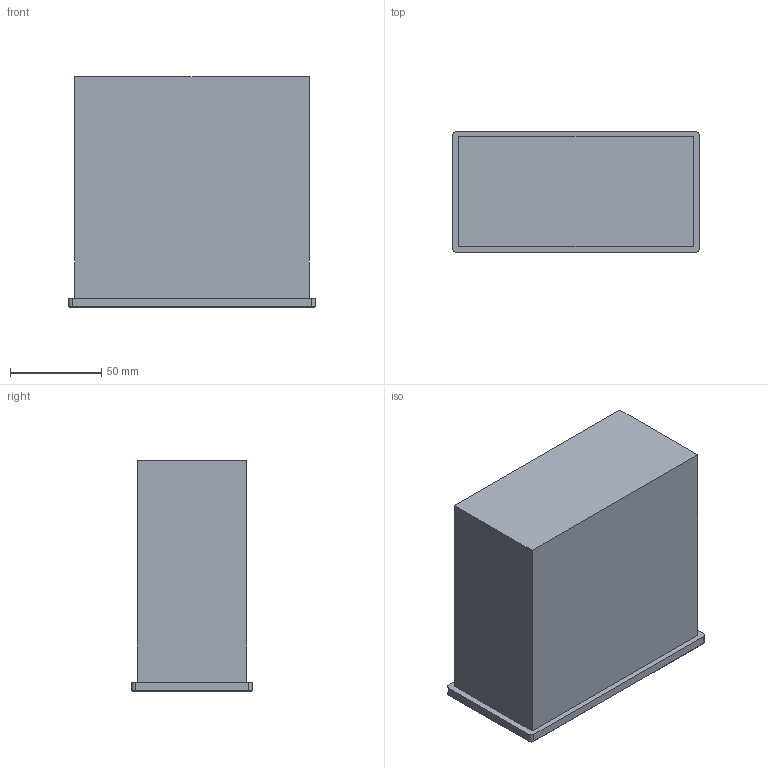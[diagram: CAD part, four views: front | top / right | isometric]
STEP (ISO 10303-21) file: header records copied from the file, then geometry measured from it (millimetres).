
FILE_DESCRIPTION(('STEP AP203'),'1');
FILE_NAME('WB-20N.stp','2023-04-04T02:41:52',(' '),(' '),'Spatial InterOp 3D',' ',' ');
FILE_SCHEMA(('CONFIG_CONTROL_DESIGN'));
Length unit declared in the file: millimetre
Products named in the file (2): WB-20N; 파트1
Assembly tree (1 placements, depth 2):
  WB-20N
    파트1
Bounding box: 135 x 66 x 126 mm (x, y, z)
Volume: 973791.5 mm3; surface area: 65216.3 mm2
Topology: 1 solids, 1 shells, 23 faces, 52 edges, 32 vertices
Faces by surface type: plane 11, cylinder 8, torus 4
Entity records: 742 total; most frequent: DIRECTION 122, CARTESIAN_POINT 109, ORIENTED_EDGE 104, EDGE_CURVE 52, AXIS2_PLACEMENT_3D 45, VERTEX_POINT 32, LINE 32, VECTOR 32
